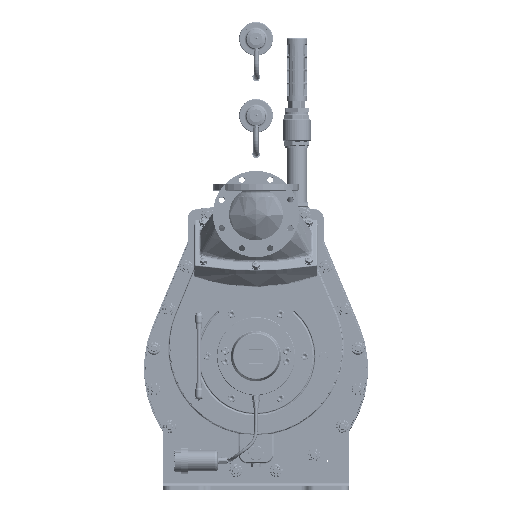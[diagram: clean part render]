
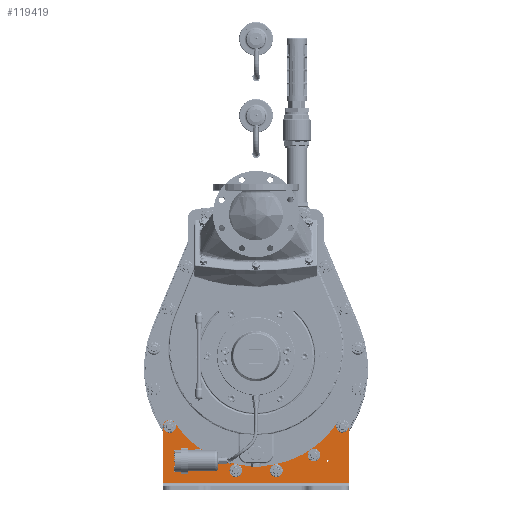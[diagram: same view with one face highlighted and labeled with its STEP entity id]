
A CAD part, top view. The second image highlights one B-rep face of the part: STEP entity #119419.
In plain terms, the highlighted planar face has unit normal (0, 0, 1) as drawn and (1, 0, 0) by its records, which use the part's own axes.
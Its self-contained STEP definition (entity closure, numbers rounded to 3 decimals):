
#13901=FACE_BOUND('',#24396,.T.);
#13902=FACE_BOUND('',#24397,.T.);
#13903=FACE_BOUND('',#24398,.T.);
#13904=FACE_BOUND('',#24399,.T.);
#13905=FACE_BOUND('',#24400,.T.);
#13906=FACE_BOUND('',#24401,.T.);
#13907=FACE_BOUND('',#24402,.T.);
#13908=FACE_BOUND('',#24403,.T.);
#14767=PLANE('',#128136);
#17347=FACE_OUTER_BOUND('',#24395,.T.);
#24395=EDGE_LOOP('',(#81424,#81425,#81426,#81427,#81428,#81429,#81430,#81431,
#81432,#81433));
#24396=EDGE_LOOP('',(#81434));
#24397=EDGE_LOOP('',(#81435));
#24398=EDGE_LOOP('',(#81436));
#24399=EDGE_LOOP('',(#81437));
#24400=EDGE_LOOP('',(#81438));
#24401=EDGE_LOOP('',(#81439));
#24402=EDGE_LOOP('',(#81440));
#24403=EDGE_LOOP('',(#81441));
#32308=LINE('',#165655,#39915);
#32310=LINE('',#165661,#39917);
#32311=LINE('',#165665,#39918);
#32312=LINE('',#165673,#39919);
#32313=LINE('',#165676,#39920);
#39915=VECTOR('',#138109,10.);
#39917=VECTOR('',#138115,10.);
#39918=VECTOR('',#138118,10.);
#39919=VECTOR('',#138125,10.);
#39920=VECTOR('',#138128,10.);
#47524=CIRCLE('',#128137,15.);
#47525=CIRCLE('',#128138,15.);
#47526=CIRCLE('',#128139,231.);
#47527=CIRCLE('',#128140,15.);
#47528=CIRCLE('',#128141,15.);
#47529=CIRCLE('',#128142,2.067);
#47530=CIRCLE('',#128143,2.067);
#47531=CIRCLE('',#128144,9.);
#47532=CIRCLE('',#128145,9.);
#47533=CIRCLE('',#128146,9.);
#47534=CIRCLE('',#128147,9.);
#47535=CIRCLE('',#128148,9.);
#47536=CIRCLE('',#128149,9.);
#51673=VERTEX_POINT('',#165652);
#51674=VERTEX_POINT('',#165654);
#51676=VERTEX_POINT('',#165660);
#51677=VERTEX_POINT('',#165662);
#51678=VERTEX_POINT('',#165664);
#51679=VERTEX_POINT('',#165666);
#51680=VERTEX_POINT('',#165668);
#51681=VERTEX_POINT('',#165670);
#51682=VERTEX_POINT('',#165672);
#51683=VERTEX_POINT('',#165674);
#51684=VERTEX_POINT('',#165677);
#51685=VERTEX_POINT('',#165679);
#51686=VERTEX_POINT('',#165681);
#51687=VERTEX_POINT('',#165683);
#51688=VERTEX_POINT('',#165685);
#51689=VERTEX_POINT('',#165687);
#51690=VERTEX_POINT('',#165689);
#51691=VERTEX_POINT('',#165691);
#63331=EDGE_CURVE('',#51673,#51674,#32308,.T.);
#63334=EDGE_CURVE('',#51676,#51673,#32310,.T.);
#63335=EDGE_CURVE('',#51677,#51676,#47524,.T.);
#63336=EDGE_CURVE('',#51678,#51677,#32311,.T.);
#63337=EDGE_CURVE('',#51679,#51678,#47525,.T.);
#63338=EDGE_CURVE('',#51679,#51680,#47526,.T.);
#63339=EDGE_CURVE('',#51681,#51680,#47527,.T.);
#63340=EDGE_CURVE('',#51682,#51681,#32312,.T.);
#63341=EDGE_CURVE('',#51683,#51682,#47528,.T.);
#63342=EDGE_CURVE('',#51674,#51683,#32313,.T.);
#63343=EDGE_CURVE('',#51684,#51684,#47529,.T.);
#63344=EDGE_CURVE('',#51685,#51685,#47530,.T.);
#63345=EDGE_CURVE('',#51686,#51686,#47531,.T.);
#63346=EDGE_CURVE('',#51687,#51687,#47532,.T.);
#63347=EDGE_CURVE('',#51688,#51688,#47533,.T.);
#63348=EDGE_CURVE('',#51689,#51689,#47534,.T.);
#63349=EDGE_CURVE('',#51690,#51690,#47535,.T.);
#63350=EDGE_CURVE('',#51691,#51691,#47536,.T.);
#81424=ORIENTED_EDGE('',*,*,#63331,.F.);
#81425=ORIENTED_EDGE('',*,*,#63334,.F.);
#81426=ORIENTED_EDGE('',*,*,#63335,.F.);
#81427=ORIENTED_EDGE('',*,*,#63336,.F.);
#81428=ORIENTED_EDGE('',*,*,#63337,.F.);
#81429=ORIENTED_EDGE('',*,*,#63338,.T.);
#81430=ORIENTED_EDGE('',*,*,#63339,.F.);
#81431=ORIENTED_EDGE('',*,*,#63340,.F.);
#81432=ORIENTED_EDGE('',*,*,#63341,.F.);
#81433=ORIENTED_EDGE('',*,*,#63342,.F.);
#81434=ORIENTED_EDGE('',*,*,#63343,.T.);
#81435=ORIENTED_EDGE('',*,*,#63344,.T.);
#81436=ORIENTED_EDGE('',*,*,#63345,.T.);
#81437=ORIENTED_EDGE('',*,*,#63346,.T.);
#81438=ORIENTED_EDGE('',*,*,#63347,.T.);
#81439=ORIENTED_EDGE('',*,*,#63348,.T.);
#81440=ORIENTED_EDGE('',*,*,#63349,.T.);
#81441=ORIENTED_EDGE('',*,*,#63350,.T.);
#119419=ADVANCED_FACE('',(#17347,#13901,#13902,#13903,#13904,#13905,#13906,
#13907,#13908),#14767,.T.);
#128136=AXIS2_PLACEMENT_3D('',#165659,#138113,#138114);
#128137=AXIS2_PLACEMENT_3D('',#165663,#138116,#138117);
#128138=AXIS2_PLACEMENT_3D('',#165667,#138119,#138120);
#128139=AXIS2_PLACEMENT_3D('',#165669,#138121,#138122);
#128140=AXIS2_PLACEMENT_3D('',#165671,#138123,#138124);
#128141=AXIS2_PLACEMENT_3D('',#165675,#138126,#138127);
#128142=AXIS2_PLACEMENT_3D('',#165678,#138129,#138130);
#128143=AXIS2_PLACEMENT_3D('',#165680,#138131,#138132);
#128144=AXIS2_PLACEMENT_3D('',#165682,#138133,#138134);
#128145=AXIS2_PLACEMENT_3D('',#165684,#138135,#138136);
#128146=AXIS2_PLACEMENT_3D('',#165686,#138137,#138138);
#128147=AXIS2_PLACEMENT_3D('',#165688,#138139,#138140);
#128148=AXIS2_PLACEMENT_3D('',#165690,#138141,#138142);
#128149=AXIS2_PLACEMENT_3D('',#165692,#138143,#138144);
#138109=DIRECTION('',(0.,0.,1.));
#138113=DIRECTION('center_axis',(1.,0.,0.));
#138114=DIRECTION('ref_axis',(0.,0.,-1.));
#138115=DIRECTION('',(0.,-1.,0.));
#138116=DIRECTION('center_axis',(-1.,0.,0.));
#138117=DIRECTION('ref_axis',(0.,0.707,-0.707));
#138118=DIRECTION('',(0.,0.,-1.));
#138119=DIRECTION('center_axis',(-1.,0.,0.));
#138120=DIRECTION('ref_axis',(0.,0.881,0.473));
#138121=DIRECTION('center_axis',(-1.,0.,0.));
#138122=DIRECTION('ref_axis',(0.,0.,-1.));
#138123=DIRECTION('center_axis',(-1.,0.,0.));
#138124=DIRECTION('ref_axis',(0.,0.881,-0.473));
#138125=DIRECTION('',(0.,0.,-1.));
#138126=DIRECTION('center_axis',(-1.,0.,0.));
#138127=DIRECTION('ref_axis',(0.,0.707,0.707));
#138128=DIRECTION('',(0.,1.,0.));
#138129=DIRECTION('center_axis',(-1.,0.,0.));
#138130=DIRECTION('ref_axis',(0.,0.,
-1.));
#138131=DIRECTION('center_axis',(-1.,0.,0.));
#138132=DIRECTION('ref_axis',(0.,0.,
-1.));
#138133=DIRECTION('center_axis',(-1.,0.,0.));
#138134=DIRECTION('ref_axis',(0.,0.,-1.));
#138135=DIRECTION('center_axis',(-1.,0.,0.));
#138136=DIRECTION('ref_axis',(0.,0.,-1.));
#138137=DIRECTION('center_axis',(-1.,0.,0.));
#138138=DIRECTION('ref_axis',(0.,0.,-1.));
#138139=DIRECTION('center_axis',(-1.,0.,0.));
#138140=DIRECTION('ref_axis',(0.,0.,-1.));
#138141=DIRECTION('center_axis',(-1.,0.,0.));
#138142=DIRECTION('ref_axis',(0.,0.,-1.));
#138143=DIRECTION('center_axis',(-1.,0.,0.));
#138144=DIRECTION('ref_axis',(0.,0.,-1.));
#165652=CARTESIAN_POINT('',(8.,16.,-220.));
#165654=CARTESIAN_POINT('',(8.,16.,220.));
#165655=CARTESIAN_POINT('',(8.,16.,0.));
#165659=CARTESIAN_POINT('Origin',(8.,58.,0.));
#165660=CARTESIAN_POINT('',(8.,150.,-220.));
#165661=CARTESIAN_POINT('',(8.,0.,-220.));
#165662=CARTESIAN_POINT('',(8.,165.,-205.));
#165663=CARTESIAN_POINT('Origin',(8.,150.,-205.));
#165664=CARTESIAN_POINT('',(8.,165.,-204.988));
#165665=CARTESIAN_POINT('',(8.,165.,-220.));
#165666=CARTESIAN_POINT('',(8.,158.293,-192.489));
#165667=CARTESIAN_POINT('Origin',(8.,150.,-204.988));
#165668=CARTESIAN_POINT('',(8.,158.293,192.489));
#165669=CARTESIAN_POINT('Origin',(8.,286.,0.));
#165670=CARTESIAN_POINT('',(8.,165.,204.988));
#165671=CARTESIAN_POINT('Origin',(8.,150.,204.988));
#165672=CARTESIAN_POINT('',(8.,165.,205.));
#165673=CARTESIAN_POINT('',(8.,165.,-220.));
#165674=CARTESIAN_POINT('',(8.,150.,220.));
#165675=CARTESIAN_POINT('Origin',(8.,150.,205.));
#165676=CARTESIAN_POINT('',(8.,165.,220.));
#165677=CARTESIAN_POINT('',(8.,68.,-167.933));
#165678=CARTESIAN_POINT('Origin',(8.,68.,-170.));
#165679=CARTESIAN_POINT('',(8.,68.,172.067));
#165680=CARTESIAN_POINT('Origin',(8.,68.,170.));
#165681=CARTESIAN_POINT('',(8.,149.33,213.542));
#165682=CARTESIAN_POINT('Origin',(8.,149.33,204.542));
#165683=CARTESIAN_POINT('',(8.,44.727,56.992));
#165684=CARTESIAN_POINT('Origin',(8.,44.727,47.992));
#165685=CARTESIAN_POINT('',(8.,81.458,-127.67));
#165686=CARTESIAN_POINT('Origin',(8.,81.458,-136.67));
#165687=CARTESIAN_POINT('',(8.,149.33,-195.542));
#165688=CARTESIAN_POINT('Origin',(8.,149.33,-204.542));
#165689=CARTESIAN_POINT('',(8.,44.727,-38.992));
#165690=CARTESIAN_POINT('Origin',(8.,44.727,-47.992));
#165691=CARTESIAN_POINT('',(8.,81.458,145.67));
#165692=CARTESIAN_POINT('Origin',(8.,81.458,136.67));
